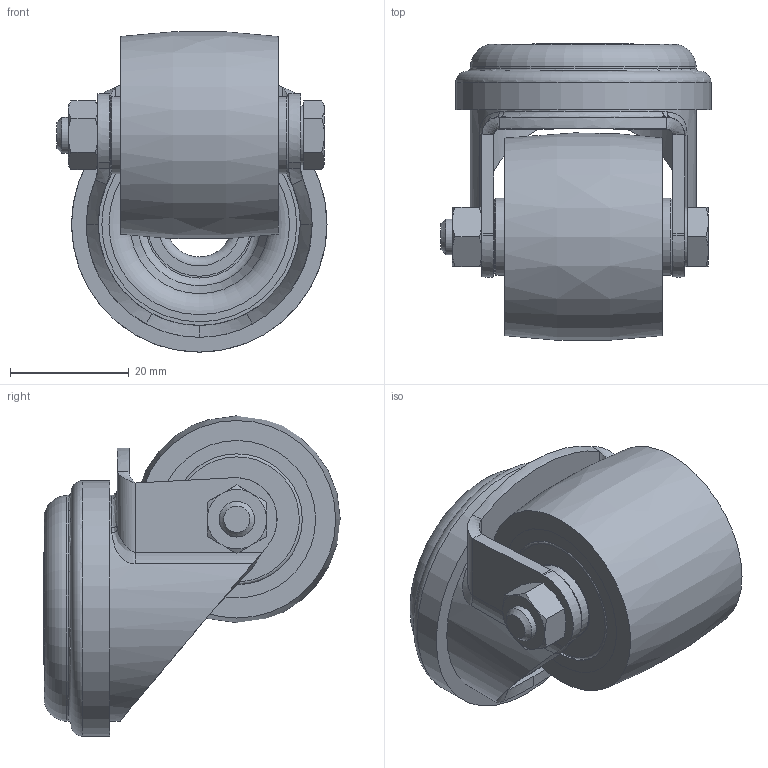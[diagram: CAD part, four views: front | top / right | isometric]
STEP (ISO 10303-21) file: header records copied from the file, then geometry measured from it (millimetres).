
FILE_DESCRIPTION (( 'STEP AP214' ), '1' );
FILE_NAME ('LRA-VSTH_35K_226431-214.step', '2013-03-30T15:06:47', ( '' ), ( '' ), 'SwSTEP 2.0', 'SolidWorks 2010', '' );
FILE_SCHEMA (( 'AUTOMOTIVE_DESIGN' ));
Length unit declared in the file: millimetre
Products named in the file (5): GH-LRA035_G15; AM_LPA_06x34,1_D8; VSTH_G15_VSTH_35_6K_227934; VSTH_35_6K_G15; LRA-VSTH_35K_226431-214
Assembly tree (4 placements, depth 3):
  LRA-VSTH_35K_226431-214
    AM_LPA_06x34,1_D8
    VSTH_G15_VSTH_35_6K_227934
      VSTH_35_6K_G15
    GH-LRA035_G15
Bounding box: 45.45 x 49.9 x 53.9 mm (x, y, z)
Volume: 42053.3 mm3; surface area: 15349.4 mm2
Topology: 3 solids, 3 shells, 665 faces, 1740 edges, 1145 vertices
Faces by surface type: plane 367, bspline 220, cylinder 39, cone 31, torus 8
Full cylindrical faces by diameter (mm): 6 x1, 6.05 x2, 8 x1, 10 x1, 11 x1, 13 x2, 13.4 x2, 17.45 x1, 22 x2, 22.02 x2, 26.5 x2, 32.8 x1, 34 x1, 38 x1, 43 x1
Entity records: 43985 total; most frequent: CARTESIAN_POINT 21999, ORIENTED_EDGE 3348, DIRECTION 2193, EDGE_CURVE 1674, VERTEX_POINT 1124, LINE 1077, VECTOR 1077, EDGE_LOOP 778
